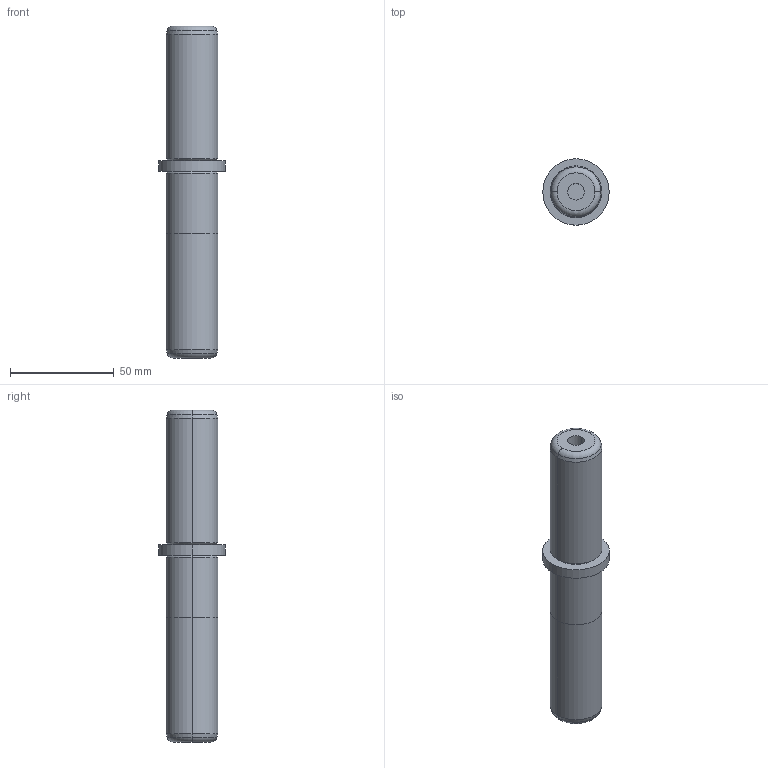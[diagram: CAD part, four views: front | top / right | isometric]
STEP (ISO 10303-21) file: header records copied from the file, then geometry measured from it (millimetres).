
FILE_DESCRIPTION(/* description */ (''),/* implementation_level */ '2;1');
FILE_NAME(/* name */ '3d_sgpwh25-90-70-b30_05314_r00.stp',/* time_stamp */ '2011-01-10T14:11:01+09:00',/* author */ ('MISUMI'),/* organization */ (''),/* preprocessor_version */ 'ST-DEVELOPER v11',/* originating_system */ 'UGS - NX 5.0',/* authorisation */ '');
FILE_SCHEMA (('CONFIG_CONTROL_DESIGN'));
Length unit declared in the file: millimetre
Products named in the file (1): 3d_sgpwh25-90-70-b30_05314_r00
Bounding box: 32 x 32 x 160 mm (x, y, z)
Volume: 77048.7 mm3; surface area: 15479.3 mm2
Topology: 1 solids, 1 shells, 30 faces, 58 edges, 34 vertices
Faces by surface type: cylinder 12, cone 8, plane 6, torus 4
Entity records: 854 total; most frequent: DIRECTION 158, CARTESIAN_POINT 123, ORIENTED_EDGE 116, AXIS2_PLACEMENT_3D 69, EDGE_CURVE 58, CIRCLE 38, EDGE_LOOP 34, VERTEX_POINT 34
